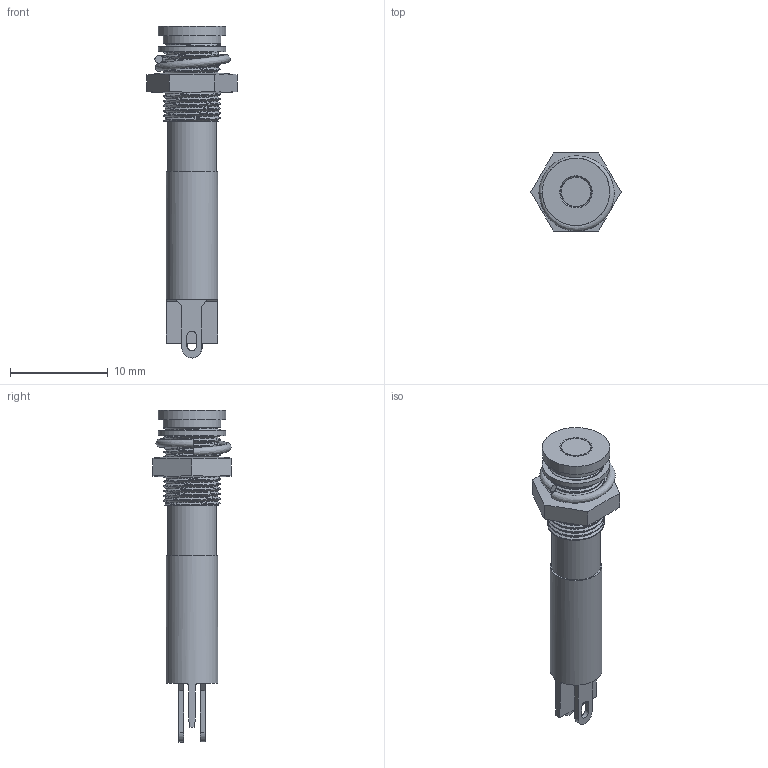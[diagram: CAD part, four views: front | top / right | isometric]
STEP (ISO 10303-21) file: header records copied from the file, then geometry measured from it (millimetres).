
FILE_DESCRIPTION(/* description */ ('AdapterTestApp'),/* implementation_level */ '2;1');
FILE_NAME(/* name */ 'Q6F1CXXR-re-design',/* time_stamp */ '2017-11-20T12:19:52+00:00',/* author */ ('AdapterTestApp'),/* organization */ ('Siemens PLM Software'),/* preprocessor_version */ 'ST-DEVELOPER v15.6',/* originating_system */ 'DEX',/* authorisation */ $);
FILE_SCHEMA (('AUTOMOTIVE_DESIGN {1 0 10303 214 3 1 1}'));
Length unit declared in the file: millimetre
Products named in the file (8): Q6F1CXXR-re-design; 14-0115-119 blade redesign-draft adjust 05-04-2017; 13-0035; 21-0025; 3mmLED-flush-cut; 34-0082; 26-0047; 12-0023-redesign
Assembly tree (8 placements, depth 2):
  Q6F1CXXR-re-design
    14-0115-119 blade redesign-draft adjust 05-04-2017
    13-0035
    21-0025
    3mmLED-flush-cut
    34-0082
    26-0047
    12-0023-redesign  x2
Bounding box: 9.24 x 8 x 34 mm (x, y, z)
Volume: 569.1 mm3; surface area: 1757.1 mm2
Topology: 8 solids, 8 shells, 240 faces, 631 edges, 412 vertices
Faces by surface type: plane 175, cylinder 31, cone 18, bspline 14, torus 2
Full cylindrical faces by diameter (mm): 3 x1, 3.1 x1, 3.4 x1, 4.225 x1, 4.3 x1, 5 x1, 5.3 x1, 5.75 x1, 5.9 x1, 6.9 x2
Entity records: 11192 total; most frequent: CARTESIAN_POINT 6100, ORIENTED_EDGE 1050, DIRECTION 953, EDGE_CURVE 525, VERTEX_POINT 352, LINE 319, VECTOR 319, AXIS2_PLACEMENT_3D 317
